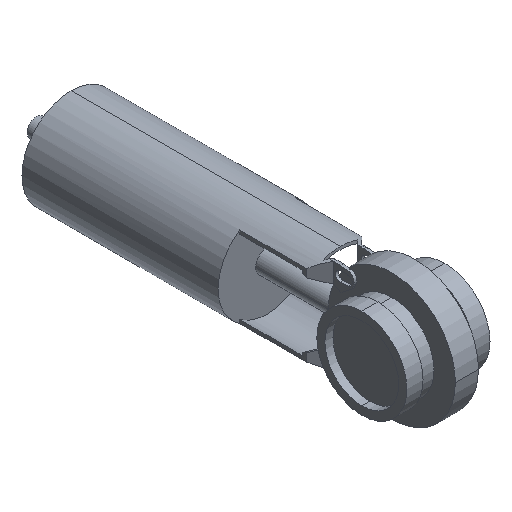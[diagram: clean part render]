
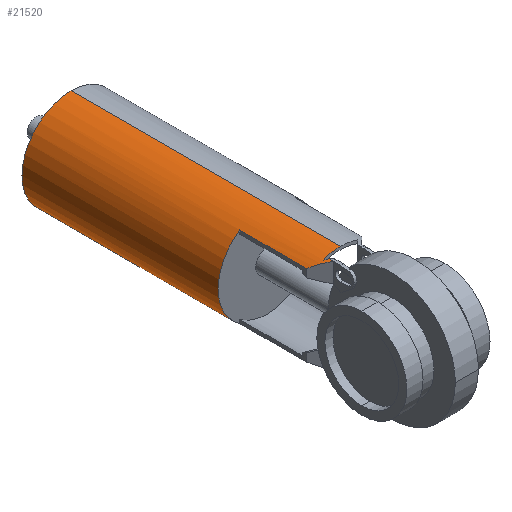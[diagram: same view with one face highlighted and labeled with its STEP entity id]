
A CAD part, isometric view. The second image highlights one B-rep face of the part: STEP entity #21520.
In plain terms, the highlighted cylindrical face has radius 42.5 mm (diameter 85 mm), a partial arc.
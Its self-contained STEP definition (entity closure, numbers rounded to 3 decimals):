
#18540=CARTESIAN_POINT('',(30.396,112.753,
35.075));
#18550=VERTEX_POINT('',#18540);
#18990=CARTESIAN_POINT('',(30.396,170.746,
35.075));
#19000=VERTEX_POINT('',#18990);
#19030=CARTESIAN_POINT('',(30.396,367.607,
35.075));
#19040=DIRECTION('',(0.,-1.,0.));
#19050=VECTOR('',#19040,1.);
#19060=LINE('',#19030,#19050);
#19070=EDGE_CURVE('',#19000,#18550,#19060,.T.);
#20080=CARTESIAN_POINT('',(54.396,170.746,
0.));
#20090=DIRECTION('',(0.,-1.,0.));
#20100=DIRECTION('',(0.,0.,-1.));
#20110=AXIS2_PLACEMENT_3D('',#20080,#20090,#20100);
#20120=CYLINDRICAL_SURFACE('',#20110,42.5);
#20130=CARTESIAN_POINT('',(54.396,170.746,42.5));
#20140=DIRECTION('',(0.,-1.,0.));
#20150=VECTOR('',#20140,1.);
#20160=LINE('',#20130,#20150);
#20170=CARTESIAN_POINT('',(54.396,340.746,42.5));
#20180=VERTEX_POINT('',#20170);
#20190=CARTESIAN_POINT('',(54.396,107.346,42.5));
#20200=VERTEX_POINT('',#20190);
#20210=EDGE_CURVE('',#20180,#20200,#20160,.T.);
#20220=ORIENTED_EDGE('',*,*,#20210,.F.);
#20230=CARTESIAN_POINT('',(54.396,107.346,
0.));
#20240=DIRECTION('',(0.,-1.,0.));
#20250=DIRECTION('',(0.,0.,1.));
#20260=AXIS2_PLACEMENT_3D('',#20230,#20240,#20250);
#20270=CIRCLE('',#20260,42.5);
#20280=CARTESIAN_POINT('',(39.338,107.346,
39.743));
#20290=VERTEX_POINT('',#20280);
#20300=EDGE_CURVE('',#20200,#20290,#20270,.T.);
#20310=ORIENTED_EDGE('',*,*,#20300,.F.);
#20320=CARTESIAN_POINT('',(54.396,92.288,
0.));
#20330=DIRECTION('',(0.707,0.707,0.));
#20340=DIRECTION('',(-0.707,0.707,0.));
#20350=AXIS2_PLACEMENT_3D('',#20320,#20330,#20340);
#20360=ELLIPSE('',#20350,60.104,42.5);
#20370=CARTESIAN_POINT('',(41.896,104.788,
40.62));
#20380=VERTEX_POINT('',#20370);
#20390=EDGE_CURVE('',#20290,#20380,#20360,.T.);
#20400=ORIENTED_EDGE('',*,*,#20390,.F.);
#20410=CARTESIAN_POINT('',(41.896,367.607,
40.62));
#20420=DIRECTION('',(0.,-1.,0.));
#20430=VECTOR('',#20420,1.);
#20440=LINE('',#20410,#20430);
#20450=CARTESIAN_POINT('',(41.896,101.253,
40.62));
#20460=VERTEX_POINT('',#20450);
#20470=EDGE_CURVE('',#20380,#20460,#20440,.T.);
#20480=ORIENTED_EDGE('',*,*,#20470,.F.);
#20490=CARTESIAN_POINT('',(54.396,88.753,
0.));
#20500=DIRECTION('',(-0.707,-0.707,0.));
#20510=DIRECTION('',(0.707,-0.707,0.));
#20520=AXIS2_PLACEMENT_3D('',#20490,#20500,#20510);
#20530=ELLIPSE('',#20520,60.104,42.5);
#20540=EDGE_CURVE('',#20460,#18550,#20530,.T.);
#20550=ORIENTED_EDGE('',*,*,#20540,.F.);
#20560=ORIENTED_EDGE('',*,*,#19070,.T.);
#20570=CARTESIAN_POINT('',(54.396,170.746,
0.));
#20580=DIRECTION('',(0.,-1.,0.));
#20590=DIRECTION('',(0.,0.,1.));
#20600=AXIS2_PLACEMENT_3D('',#20570,#20580,#20590);
#20610=CIRCLE('',#20600,42.5);
#20620=CARTESIAN_POINT('',(30.396,170.746,
-35.075));
#20630=VERTEX_POINT('',#20620);
#20640=EDGE_CURVE('',#19000,#20630,#20610,.T.);
#20650=ORIENTED_EDGE('',*,*,#20640,.F.);
#20660=CARTESIAN_POINT('',(30.396,367.607,
-35.075));
#20670=DIRECTION('',(0.,-1.,0.));
#20680=VECTOR('',#20670,1.);
#20690=LINE('',#20660,#20680);
#20700=CARTESIAN_POINT('',(30.396,112.753,
-35.075));
#20710=VERTEX_POINT('',#20700);
#20720=EDGE_CURVE('',#20630,#20710,#20690,.T.);
#20730=ORIENTED_EDGE('',*,*,#20720,.F.);
#20740=CARTESIAN_POINT('',(54.396,88.753,
0.));
#20750=DIRECTION('',(0.707,0.707,0.));
#20760=DIRECTION('',(0.707,-0.707,0.));
#20770=AXIS2_PLACEMENT_3D('',#20740,#20750,#20760);
#20780=ELLIPSE('',#20770,60.104,42.5);
#20790=CARTESIAN_POINT('',(41.896,101.253,
-40.62));
#20800=VERTEX_POINT('',#20790);
#20810=EDGE_CURVE('',#20800,#20710,#20780,.T.);
#20820=ORIENTED_EDGE('',*,*,#20810,.T.);
#20830=CARTESIAN_POINT('',(41.896,367.607,
-40.62));
#20840=DIRECTION('',(0.,-1.,0.));
#20850=VECTOR('',#20840,1.);
#20860=LINE('',#20830,#20850);
#20870=CARTESIAN_POINT('',(41.896,94.797,
-40.62));
#20880=VERTEX_POINT('',#20870);
#20890=EDGE_CURVE('',#20800,#20880,#20860,.T.);
#20900=ORIENTED_EDGE('',*,*,#20890,.F.);
#20910=CARTESIAN_POINT('',(54.396,-261.721,
0.));
#20920=DIRECTION('',(0.,-0.113,-0.994));
#20930=DIRECTION('',(0.,0.994,-0.113));
#20940=AXIS2_PLACEMENT_3D('',#20910,#20920,#20930);
#20950=ELLIPSE('',#20940,375.431,42.5);
#20960=CARTESIAN_POINT('',(43.749,99.4,
-41.145));
#20970=VERTEX_POINT('',#20960);
#20980=EDGE_CURVE('',#20880,#20970,#20950,.T.);
#20990=ORIENTED_EDGE('',*,*,#20980,.F.);
#21000=CARTESIAN_POINT('',(54.396,88.753,
0.));
#21010=DIRECTION('',(-0.707,-0.707,0.));
#21020=DIRECTION('',(-0.707,0.707,0.));
#21030=AXIS2_PLACEMENT_3D('',#21000,#21010,#21020);
#21040=ELLIPSE('',#21030,60.104,42.5);
#21050=CARTESIAN_POINT('',(44.396,98.753,
-41.307));
#21060=VERTEX_POINT('',#21050);
#21070=EDGE_CURVE('',#20970,#21060,#21040,.T.);
#21080=ORIENTED_EDGE('',*,*,#21070,.F.);
#21090=CARTESIAN_POINT('',(44.396,367.607,
-41.307));
#21100=DIRECTION('',(0.,-1.,0.));
#21110=VECTOR('',#21100,1.);
#21120=LINE('',#21090,#21110);
#21130=CARTESIAN_POINT('',(44.396,102.288,
-41.307));
#21140=VERTEX_POINT('',#21130);
#21150=EDGE_CURVE('',#21140,#21060,#21120,.T.);
#21160=ORIENTED_EDGE('',*,*,#21150,.T.);
#21170=CARTESIAN_POINT('',(54.396,92.288,
0.));
#21180=DIRECTION('',(0.707,0.707,0.));
#21190=DIRECTION('',(0.707,-0.707,0.));
#21200=AXIS2_PLACEMENT_3D('',#21170,#21180,#21190);
#21210=ELLIPSE('',#21200,60.104,42.5);
#21220=CARTESIAN_POINT('',(39.338,107.346,
-39.743));
#21230=VERTEX_POINT('',#21220);
#21240=EDGE_CURVE('',#21140,#21230,#21210,.T.);
#21250=ORIENTED_EDGE('',*,*,#21240,.F.);
#21260=CARTESIAN_POINT('',(54.396,107.346,
0.));
#21270=DIRECTION('',(0.,-1.,0.));
#21280=DIRECTION('',(0.,0.,-1.));
#21290=AXIS2_PLACEMENT_3D('',#21260,#21270,#21280);
#21300=CIRCLE('',#21290,42.5);
#21310=CARTESIAN_POINT('',(54.396,107.346,-42.5));
#21320=VERTEX_POINT('',#21310);
#21330=EDGE_CURVE('',#21230,#21320,#21300,.T.);
#21340=ORIENTED_EDGE('',*,*,#21330,.F.);
#21350=CARTESIAN_POINT('',(54.396,170.746,-42.5));
#21360=DIRECTION('',(0.,-1.,0.));
#21370=VECTOR('',#21360,1.);
#21380=LINE('',#21350,#21370);
#21390=CARTESIAN_POINT('',(54.396,340.746,-42.5));
#21400=VERTEX_POINT('',#21390);
#21410=EDGE_CURVE('',#21400,#21320,#21380,.T.);
#21420=ORIENTED_EDGE('',*,*,#21410,.T.);
#21430=CARTESIAN_POINT('',(54.396,340.746,
0.));
#21440=DIRECTION('',(0.,-1.,0.));
#21450=DIRECTION('',(0.,0.,-1.));
#21460=AXIS2_PLACEMENT_3D('',#21430,#21440,#21450);
#21470=CIRCLE('',#21460,42.5);
#21480=EDGE_CURVE('',#20180,#21400,#21470,.T.);
#21490=ORIENTED_EDGE('',*,*,#21480,.T.);
#21500=EDGE_LOOP('',(#21490,#21420,#21340,#21250,#21160,#21080,#20990,
#20900,#20820,#20730,#20650,#20560,#20550,#20480,#20400,#20310,#20220));
#21510=FACE_OUTER_BOUND('',#21500,.T.);
#21520=ADVANCED_FACE('',(#21510),#20120,.T.);
